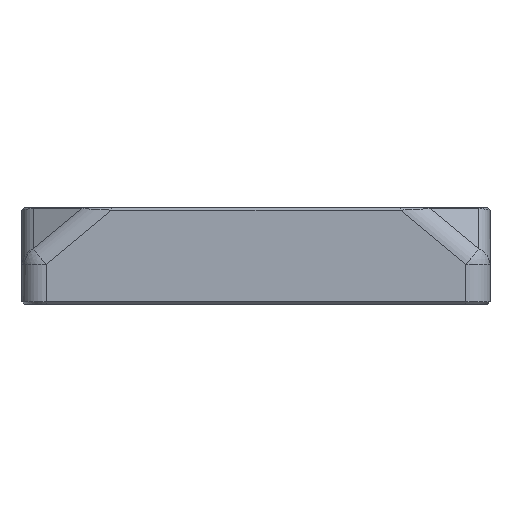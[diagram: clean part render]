
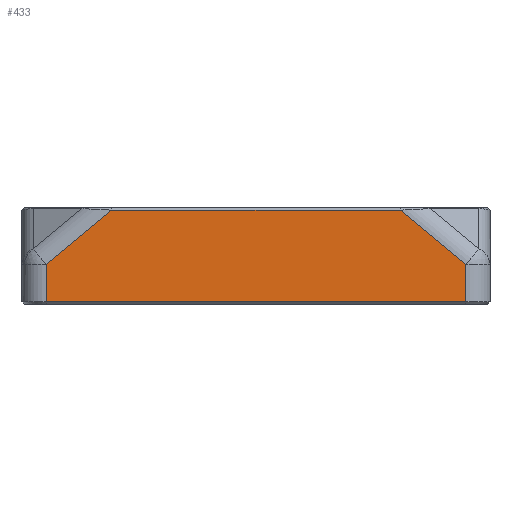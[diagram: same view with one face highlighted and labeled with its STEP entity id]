
A CAD part, front view. The second image highlights one B-rep face of the part: STEP entity #433.
In plain terms, the highlighted planar face has unit normal (0, -1, 0).
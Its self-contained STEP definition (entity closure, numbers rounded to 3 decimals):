
#197 = EDGE_CURVE ( 'NONE', #1765, #209, #2932, .T. ) ;
#209 = VERTEX_POINT ( 'NONE', #5584 ) ;
#336 = EDGE_CURVE ( 'NONE', #4249, #1532, #5346, .T. ) ;
#433 = ADVANCED_FACE ( 'NONE', ( #544 ), #3955, .T. ) ;
#544 = FACE_OUTER_BOUND ( 'NONE', #3472, .T. ) ;
#638 = ORIENTED_EDGE ( 'NONE', *, *, #336, .T. ) ;
#1033 = VERTEX_POINT ( 'NONE', #2167 ) ;
#1532 = VERTEX_POINT ( 'NONE', #4623 ) ;
#1598 = AXIS2_PLACEMENT_3D ( 'NONE', #9388, #2364, #4694 ) ;
#1765 = VERTEX_POINT ( 'NONE', #3408 ) ;
#1819 = VECTOR ( 'NONE', #6386, 1000. ) ;
#1875 = EDGE_CURVE ( 'NONE', #9143, #1765, #4285, .T. ) ;
#2167 = CARTESIAN_POINT ( 'NONE',  ( 63.8, 20.5, 0.5 ) ) ;
#2364 = DIRECTION ( 'NONE',  ( 0., -1., 0. ) ) ;
#2389 = DIRECTION ( 'NONE',  ( 1., 0., 0. ) ) ;
#2633 = ORIENTED_EDGE ( 'NONE', *, *, #197, .T. ) ;
#2690 = VECTOR ( 'NONE', #7823, 1000. ) ;
#2932 = LINE ( 'NONE', #7258, #2690 ) ;
#3127 = ORIENTED_EDGE ( 'NONE', *, *, #9304, .T. ) ;
#3271 = LINE ( 'NONE', #5498, #1819 ) ;
#3408 = CARTESIAN_POINT ( 'NONE',  ( -23.2, 20.5, 8.275 ) ) ;
#3472 = EDGE_LOOP ( 'NONE', ( #2633, #5261, #3127, #638, #7690, #7223 ) ) ;
#3594 = EDGE_CURVE ( 'NONE', #209, #1033, #8106, .T. ) ;
#3955 = PLANE ( 'NONE',  #1598 ) ;
#4249 = VERTEX_POINT ( 'NONE', #4823 ) ;
#4285 = LINE ( 'NONE', #7582, #6595 ) ;
#4623 = CARTESIAN_POINT ( 'NONE',  ( 50.193, 20.5, 19.5 ) ) ;
#4694 = DIRECTION ( 'NONE',  ( 0., 0., -1. ) ) ;
#4823 = CARTESIAN_POINT ( 'NONE',  ( 63.8, 20.5, 8.275 ) ) ;
#5261 = ORIENTED_EDGE ( 'NONE', *, *, #3594, .T. ) ;
#5346 = LINE ( 'NONE', #7735, #5954 ) ;
#5354 = CARTESIAN_POINT ( 'NONE',  ( -9.593, 20.5, 19.5 ) ) ;
#5356 = DIRECTION ( 'NONE',  ( -0.771, 0., 0.636 ) ) ;
#5408 = CARTESIAN_POINT ( 'NONE',  ( -35.2, 20.5, 0.5 ) ) ;
#5498 = CARTESIAN_POINT ( 'NONE',  ( 63.8, 20.5, 20. ) ) ;
#5584 = CARTESIAN_POINT ( 'NONE',  ( -23.2, 20.5, 0.5 ) ) ;
#5722 = LINE ( 'NONE', #8529, #7045 ) ;
#5907 = VECTOR ( 'NONE', #2389, 1000. ) ;
#5954 = VECTOR ( 'NONE', #5356, 1000. ) ;
#6386 = DIRECTION ( 'NONE',  ( 0., 0., 1. ) ) ;
#6595 = VECTOR ( 'NONE', #9065, 1000. ) ;
#6970 = DIRECTION ( 'NONE',  ( -1., 0., 0. ) ) ;
#7045 = VECTOR ( 'NONE', #6970, 1000. ) ;
#7223 = ORIENTED_EDGE ( 'NONE', *, *, #1875, .T. ) ;
#7258 = CARTESIAN_POINT ( 'NONE',  ( -23.2, 20.5, 0. ) ) ;
#7332 = EDGE_CURVE ( 'NONE', #1532, #9143, #5722, .T. ) ;
#7582 = CARTESIAN_POINT ( 'NONE',  ( -21.453, 20.5, 9.716 ) ) ;
#7690 = ORIENTED_EDGE ( 'NONE', *, *, #7332, .T. ) ;
#7735 = CARTESIAN_POINT ( 'NONE',  ( 52.154, 20.5, 17.883 ) ) ;
#7823 = DIRECTION ( 'NONE',  ( 0., 0., -1. ) ) ;
#8106 = LINE ( 'NONE', #5408, #5907 ) ;
#8529 = CARTESIAN_POINT ( 'NONE',  ( -8.987, 20.5, 19.5 ) ) ;
#9065 = DIRECTION ( 'NONE',  ( -0.771, 0., -0.636 ) ) ;
#9143 = VERTEX_POINT ( 'NONE', #5354 ) ;
#9304 = EDGE_CURVE ( 'NONE', #1033, #4249, #3271, .T. ) ;
#9388 = CARTESIAN_POINT ( 'NONE',  ( -35.2, 20.5, -111.033 ) ) ;
